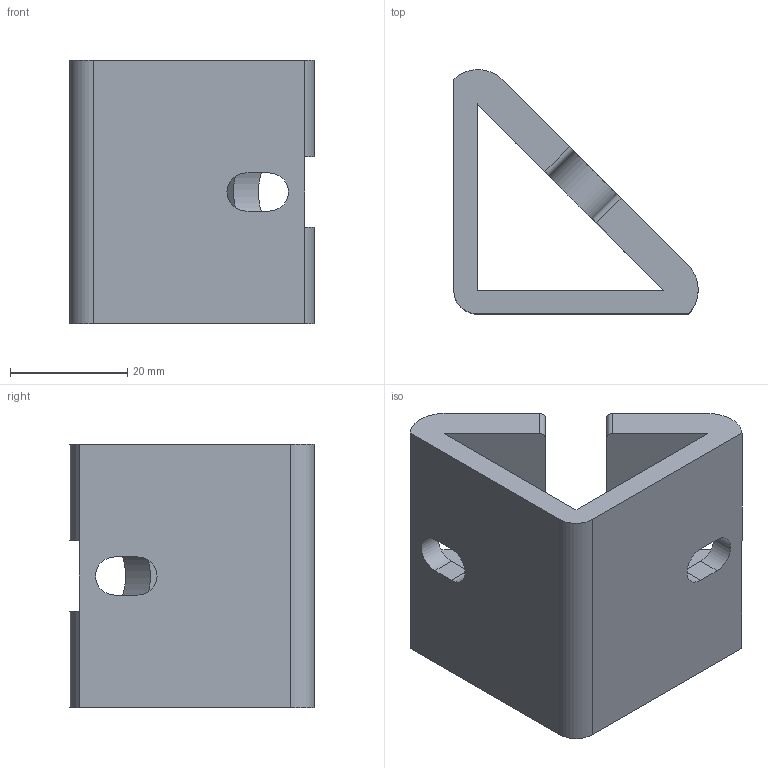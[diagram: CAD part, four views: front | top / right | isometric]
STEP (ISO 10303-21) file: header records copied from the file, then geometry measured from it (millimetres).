
FILE_DESCRIPTION (( 'STEP AP214' ), '1' );
FILE_NAME ('8315s.STEP', '2023-10-24T11:48:39', ( '' ), ( '' ), 'SwSTEP 2.0', 'SolidWorks 2022', '' );
FILE_SCHEMA (( 'AUTOMOTIVE_DESIGN' ));
Length unit declared in the file: millimetre
Products named in the file (1): 8315s
Bounding box: 41.7 x 41.68 x 45 mm (x, y, z)
Volume: 23296.7 mm3; surface area: 12134.4 mm2
Topology: 1 solids, 1 shells, 37 faces, 116 edges, 76 vertices
Faces by surface type: plane 20, cylinder 15, bspline 2
Entity records: 1348 total; most frequent: CARTESIAN_POINT 256, ORIENTED_EDGE 232, DIRECTION 214, EDGE_CURVE 116, LINE 82, VECTOR 82, VERTEX_POINT 76, AXIS2_PLACEMENT_3D 66
